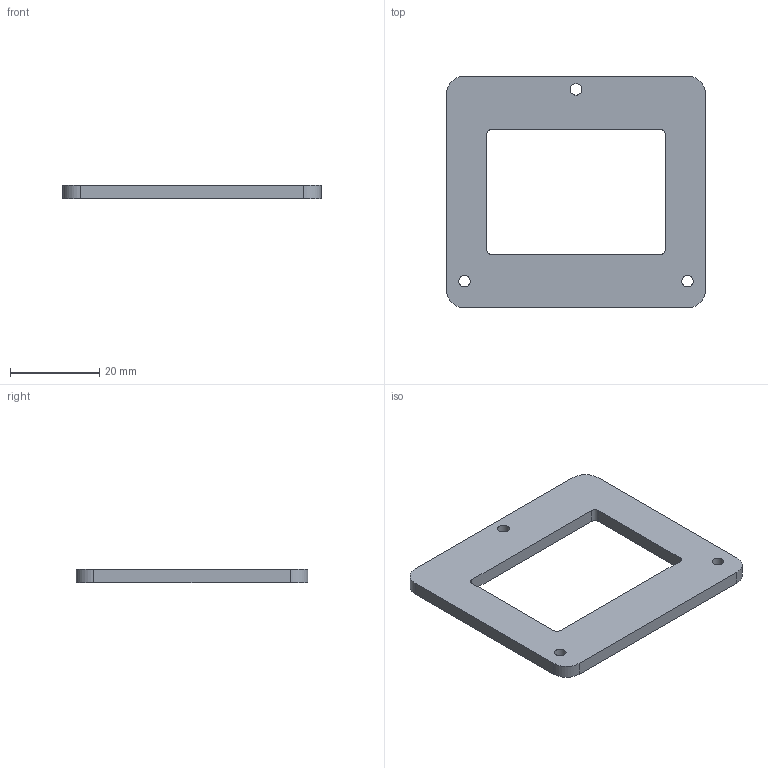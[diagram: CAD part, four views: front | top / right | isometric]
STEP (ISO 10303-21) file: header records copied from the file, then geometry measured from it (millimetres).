
FILE_DESCRIPTION(('Open CASCADE Model'),'2;1');
FILE_NAME('Open CASCADE Shape Model','2026-11-05T01:23:31',('Author'),( 'Open CASCADE'),'Open CASCADE STEP processor 7.8','Open CASCADE 7.8' ,'Unknown');
FILE_SCHEMA(('AUTOMOTIVE_DESIGN { 1 0 10303 214 1 1 1 1 }'));
Length unit declared in the file: millimetre
Products named in the file (1): Open CASCADE STEP translator 7.8 10
Bounding box: 58 x 52 x 3 mm (x, y, z)
Volume: 5601.6 mm3; surface area: 4850.2 mm2
Topology: 1 solids, 1 shells, 21 faces, 57 edges, 38 vertices
Faces by surface type: cylinder 11, plane 10
Full cylindrical faces by diameter (mm): 2.6 x3
Entity records: 1476 total; most frequent: CARTESIAN_POINT 303, DIRECTION 225, LINE 127, VECTOR 127, ORIENTED_EDGE 114, PCURVE 114, DEFINITIONAL_REPRESENTATION 114, EDGE_CURVE 57
